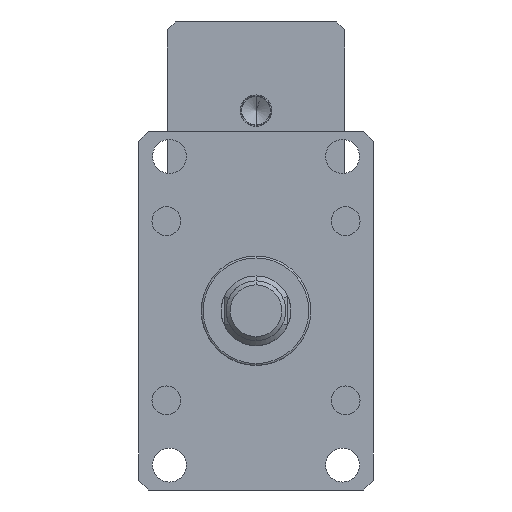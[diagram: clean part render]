
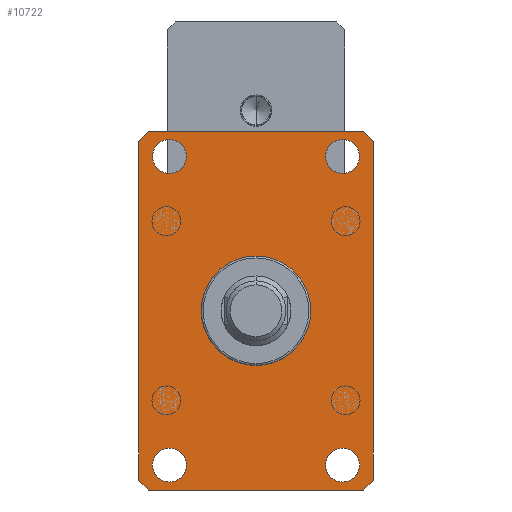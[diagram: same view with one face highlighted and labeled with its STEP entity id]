
A CAD part, front view. The second image highlights one B-rep face of the part: STEP entity #10722.
In plain terms, the highlighted planar face has unit normal (0, -1, 0).
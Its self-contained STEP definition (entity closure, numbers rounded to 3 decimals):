
#66 = CIRCLE ( 'NONE', #11550, 8.5 ) ;
#123 = FACE_OUTER_BOUND ( 'NONE', #8754, .T. ) ;
#133 = CARTESIAN_POINT ( 'NONE',  ( -59., -55., 85. ) ) ;
#186 = VERTEX_POINT ( 'NONE', #9388 ) ;
#252 = CIRCLE ( 'NONE', #10441, 8.5 ) ;
#519 = VERTEX_POINT ( 'NONE', #9987 ) ;
#634 = VERTEX_POINT ( 'NONE', #10196 ) ;
#656 = ORIENTED_EDGE ( 'NONE', *, *, #6417, .T. ) ;
#678 = ORIENTED_EDGE ( 'NONE', *, *, #12260, .F. ) ;
#694 = CARTESIAN_POINT ( 'NONE',  ( 43.5, -55., 77.5 ) ) ;
#802 = ORIENTED_EDGE ( 'NONE', *, *, #3230, .T. ) ;
#1021 = VECTOR ( 'NONE', #9294, 1000. ) ;
#1072 = CIRCLE ( 'NONE', #5310, 8.5 ) ;
#1224 = CARTESIAN_POINT ( 'NONE',  ( -54., -55., 90. ) ) ;
#1248 = EDGE_LOOP ( 'NONE', ( #3587, #6878 ) ) ;
#1553 = CIRCLE ( 'NONE', #3024, 8.5 ) ;
#1690 = DIRECTION ( 'NONE',  ( 0., 0., -1. ) ) ;
#1742 = VERTEX_POINT ( 'NONE', #1224 ) ;
#1789 = LINE ( 'NONE', #10679, #6483 ) ;
#1790 = VECTOR ( 'NONE', #6765, 1000. ) ;
#1997 = VERTEX_POINT ( 'NONE', #8917 ) ;
#2091 = CARTESIAN_POINT ( 'NONE',  ( -54., -55., 90. ) ) ;
#2113 = LINE ( 'NONE', #3612, #4783 ) ;
#2317 = CARTESIAN_POINT ( 'NONE',  ( -59., -55., -85. ) ) ;
#2352 = CARTESIAN_POINT ( 'NONE',  ( -43.5, -55., -77.5 ) ) ;
#2492 = CARTESIAN_POINT ( 'NONE',  ( -43.5, -55., 77.5 ) ) ;
#2515 = EDGE_CURVE ( 'NONE', #12506, #186, #6338, .T. ) ;
#2561 = CARTESIAN_POINT ( 'NONE',  ( 43.5, -55., 86. ) ) ;
#2680 = EDGE_CURVE ( 'NONE', #8299, #12506, #2113, .T. ) ;
#2722 = AXIS2_PLACEMENT_3D ( 'NONE', #10495, #4591, #11435 ) ;
#2783 = ORIENTED_EDGE ( 'NONE', *, *, #7632, .T. ) ;
#2796 = VECTOR ( 'NONE', #3092, 1000. ) ;
#2912 = EDGE_CURVE ( 'NONE', #5929, #11748, #252, .T. ) ;
#2954 = VERTEX_POINT ( 'NONE', #10735 ) ;
#2964 = CARTESIAN_POINT ( 'NONE',  ( 43.5, -55., -77.5 ) ) ;
#2982 = EDGE_CURVE ( 'NONE', #186, #10465, #11800, .T. ) ;
#3024 = AXIS2_PLACEMENT_3D ( 'NONE', #2492, #9440, #3470 ) ;
#3032 = VECTOR ( 'NONE', #7122, 1000. ) ;
#3078 = EDGE_CURVE ( 'NONE', #519, #4936, #10622, .T. ) ;
#3092 = DIRECTION ( 'NONE',  ( -1., 0., 0. ) ) ;
#3230 = EDGE_CURVE ( 'NONE', #1742, #519, #12578, .T. ) ;
#3294 = CARTESIAN_POINT ( 'NONE',  ( 43.5, -55., -77.5 ) ) ;
#3295 = DIRECTION ( 'NONE',  ( 0.707, 0., -0.707 ) ) ;
#3341 = DIRECTION ( 'NONE',  ( 0., 0., 1. ) ) ;
#3406 = CIRCLE ( 'NONE', #8143, 8.5 ) ;
#3470 = DIRECTION ( 'NONE',  ( 0., 0., -1. ) ) ;
#3500 = EDGE_LOOP ( 'NONE', ( #678, #11009 ) ) ;
#3587 = ORIENTED_EDGE ( 'NONE', *, *, #6962, .F. ) ;
#3612 = CARTESIAN_POINT ( 'NONE',  ( 54., -55., -90. ) ) ;
#3613 = EDGE_CURVE ( 'NONE', #4936, #6544, #11193, .T. ) ;
#3746 = CARTESIAN_POINT ( 'NONE',  ( 43.5, -55., 77.5 ) ) ;
#3968 = DIRECTION ( 'NONE',  ( 0., 0., 1. ) ) ;
#4073 = ORIENTED_EDGE ( 'NONE', *, *, #3078, .T. ) ;
#4231 = EDGE_LOOP ( 'NONE', ( #7209, #11794 ) ) ;
#4326 = DIRECTION ( 'NONE',  ( 0., 0., 1. ) ) ;
#4502 = CARTESIAN_POINT ( 'NONE',  ( 43.5, -55., -86. ) ) ;
#4591 = DIRECTION ( 'NONE',  ( 0., -1., 0. ) ) ;
#4773 = DIRECTION ( 'NONE',  ( 0., 0., -1. ) ) ;
#4783 = VECTOR ( 'NONE', #9576, 1000. ) ;
#4936 = VERTEX_POINT ( 'NONE', #11920 ) ;
#5063 = PLANE ( 'NONE',  #5693 ) ;
#5109 = DIRECTION ( 'NONE',  ( 0., 1., 0. ) ) ;
#5196 = VERTEX_POINT ( 'NONE', #4502 ) ;
#5232 = AXIS2_PLACEMENT_3D ( 'NONE', #694, #7671, #1690 ) ;
#5310 = AXIS2_PLACEMENT_3D ( 'NONE', #2964, #9906, #3968 ) ;
#5352 = DIRECTION ( 'NONE',  ( 0., 1., 0. ) ) ;
#5456 = FACE_BOUND ( 'NONE', #4231, .T. ) ;
#5476 = LINE ( 'NONE', #2091, #2796 ) ;
#5693 = AXIS2_PLACEMENT_3D ( 'NONE', #10014, #5109, #11941 ) ;
#5790 = CARTESIAN_POINT ( 'NONE',  ( 43.5, -55., -69. ) ) ;
#5929 = VERTEX_POINT ( 'NONE', #7183 ) ;
#6338 = LINE ( 'NONE', #12137, #1021 ) ;
#6417 = EDGE_CURVE ( 'NONE', #6706, #5196, #1072, .T. ) ;
#6479 = EDGE_CURVE ( 'NONE', #10465, #1742, #5476, .T. ) ;
#6483 = VECTOR ( 'NONE', #9708, 1000. ) ;
#6544 = VERTEX_POINT ( 'NONE', #8293 ) ;
#6608 = EDGE_CURVE ( 'NONE', #634, #2954, #1553, .T. ) ;
#6639 = VECTOR ( 'NONE', #6815, 1000. ) ;
#6706 = VERTEX_POINT ( 'NONE', #5790 ) ;
#6765 = DIRECTION ( 'NONE',  ( -0.707, 0., -0.707 ) ) ;
#6815 = DIRECTION ( 'NONE',  ( -0.707, 0., 0.707 ) ) ;
#6820 = CARTESIAN_POINT ( 'NONE',  ( 59., -55., -85. ) ) ;
#6878 = ORIENTED_EDGE ( 'NONE', *, *, #2912, .F. ) ;
#6881 = AXIS2_PLACEMENT_3D ( 'NONE', #3294, #10223, #4326 ) ;
#6891 = EDGE_CURVE ( 'NONE', #8989, #1997, #3406, .T. ) ;
#6962 = EDGE_CURVE ( 'NONE', #11748, #5929, #7777, .T. ) ;
#7122 = DIRECTION ( 'NONE',  ( 0., 0., -1. ) ) ;
#7183 = CARTESIAN_POINT ( 'NONE',  ( 43.5, -55., 69. ) ) ;
#7209 = ORIENTED_EDGE ( 'NONE', *, *, #6891, .T. ) ;
#7632 = EDGE_CURVE ( 'NONE', #6544, #8299, #1789, .T. ) ;
#7671 = DIRECTION ( 'NONE',  ( 0., -1., 0. ) ) ;
#7770 = FACE_BOUND ( 'NONE', #1248, .T. ) ;
#7777 = CIRCLE ( 'NONE', #5232, 8.5 ) ;
#7965 = ORIENTED_EDGE ( 'NONE', *, *, #3613, .T. ) ;
#8090 = FACE_BOUND ( 'NONE', #10896, .T. ) ;
#8143 = AXIS2_PLACEMENT_3D ( 'NONE', #2352, #9319, #3341 ) ;
#8275 = ORIENTED_EDGE ( 'NONE', *, *, #2982, .T. ) ;
#8293 = CARTESIAN_POINT ( 'NONE',  ( -54., -55., -90. ) ) ;
#8299 = VERTEX_POINT ( 'NONE', #8469 ) ;
#8469 = CARTESIAN_POINT ( 'NONE',  ( 54., -55., -90. ) ) ;
#8656 = VECTOR ( 'NONE', #3295, 1000. ) ;
#8754 = EDGE_LOOP ( 'NONE', ( #2783, #11875, #9933, #8275, #11443, #802, #4073, #7965 ) ) ;
#8917 = CARTESIAN_POINT ( 'NONE',  ( -43.5, -55., -86. ) ) ;
#8944 = EDGE_CURVE ( 'NONE', #1997, #8989, #66, .T. ) ;
#8989 = VERTEX_POINT ( 'NONE', #12262 ) ;
#9158 = CIRCLE ( 'NONE', #6881, 8.5 ) ;
#9294 = DIRECTION ( 'NONE',  ( 0., 0., 1. ) ) ;
#9319 = DIRECTION ( 'NONE',  ( 0., 1., 0. ) ) ;
#9388 = CARTESIAN_POINT ( 'NONE',  ( 59., -55., 85. ) ) ;
#9440 = DIRECTION ( 'NONE',  ( 0., -1., 0. ) ) ;
#9576 = DIRECTION ( 'NONE',  ( 0.707, 0., 0.707 ) ) ;
#9708 = DIRECTION ( 'NONE',  ( 1., 0., 0. ) ) ;
#9906 = DIRECTION ( 'NONE',  ( 0., 1., 0. ) ) ;
#9933 = ORIENTED_EDGE ( 'NONE', *, *, #2515, .T. ) ;
#9987 = CARTESIAN_POINT ( 'NONE',  ( -59., -55., 85. ) ) ;
#10014 = CARTESIAN_POINT ( 'NONE',  ( 59., -55., -90. ) ) ;
#10196 = CARTESIAN_POINT ( 'NONE',  ( -43.5, -55., 69. ) ) ;
#10223 = DIRECTION ( 'NONE',  ( 0., 1., 0. ) ) ;
#10365 = FACE_BOUND ( 'NONE', #3500, .T. ) ;
#10378 = CARTESIAN_POINT ( 'NONE',  ( 54., -55., 90. ) ) ;
#10441 = AXIS2_PLACEMENT_3D ( 'NONE', #3746, #10664, #4773 ) ;
#10465 = VERTEX_POINT ( 'NONE', #10378 ) ;
#10495 = CARTESIAN_POINT ( 'NONE',  ( -43.5, -55., 77.5 ) ) ;
#10622 = LINE ( 'NONE', #133, #3032 ) ;
#10664 = DIRECTION ( 'NONE',  ( 0., -1., 0. ) ) ;
#10679 = CARTESIAN_POINT ( 'NONE',  ( -54., -55., -90. ) ) ;
#10722 = ADVANCED_FACE ( 'NONE', ( #10365, #8090, #5456, #123, #7770 ), #5063, .F. ) ;
#10735 = CARTESIAN_POINT ( 'NONE',  ( -43.5, -55., 86. ) ) ;
#10860 = EDGE_CURVE ( 'NONE', #5196, #6706, #9158, .T. ) ;
#10896 = EDGE_LOOP ( 'NONE', ( #656, #12503 ) ) ;
#11009 = ORIENTED_EDGE ( 'NONE', *, *, #6608, .F. ) ;
#11193 = LINE ( 'NONE', #2317, #8656 ) ;
#11194 = CARTESIAN_POINT ( 'NONE',  ( -43.5, -55., -77.5 ) ) ;
#11435 = DIRECTION ( 'NONE',  ( 0., 0., -1. ) ) ;
#11443 = ORIENTED_EDGE ( 'NONE', *, *, #6479, .T. ) ;
#11550 = AXIS2_PLACEMENT_3D ( 'NONE', #11194, #5352, #12175 ) ;
#11696 = CARTESIAN_POINT ( 'NONE',  ( 54., -55., 90. ) ) ;
#11748 = VERTEX_POINT ( 'NONE', #2561 ) ;
#11794 = ORIENTED_EDGE ( 'NONE', *, *, #8944, .T. ) ;
#11800 = LINE ( 'NONE', #11696, #6639 ) ;
#11875 = ORIENTED_EDGE ( 'NONE', *, *, #2680, .T. ) ;
#11920 = CARTESIAN_POINT ( 'NONE',  ( -59., -55., -85. ) ) ;
#11941 = DIRECTION ( 'NONE',  ( 0., 0., 1. ) ) ;
#12130 = CIRCLE ( 'NONE', #2722, 8.5 ) ;
#12137 = CARTESIAN_POINT ( 'NONE',  ( 59., -55., 85. ) ) ;
#12175 = DIRECTION ( 'NONE',  ( 0., 0., 1. ) ) ;
#12260 = EDGE_CURVE ( 'NONE', #2954, #634, #12130, .T. ) ;
#12262 = CARTESIAN_POINT ( 'NONE',  ( -43.5, -55., -69. ) ) ;
#12503 = ORIENTED_EDGE ( 'NONE', *, *, #10860, .T. ) ;
#12506 = VERTEX_POINT ( 'NONE', #6820 ) ;
#12578 = LINE ( 'NONE', #12594, #1790 ) ;
#12594 = CARTESIAN_POINT ( 'NONE',  ( -59., -55., 85. ) ) ;
